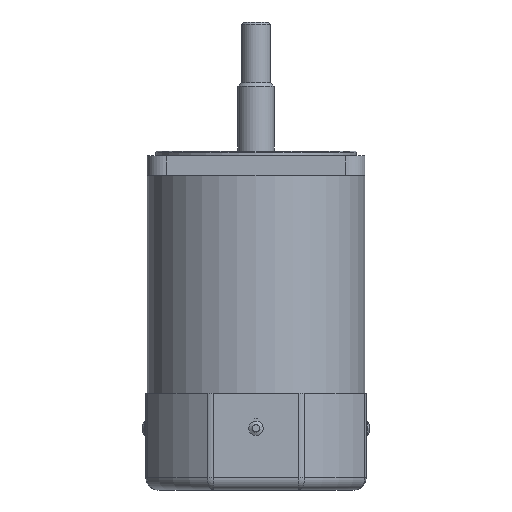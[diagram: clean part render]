
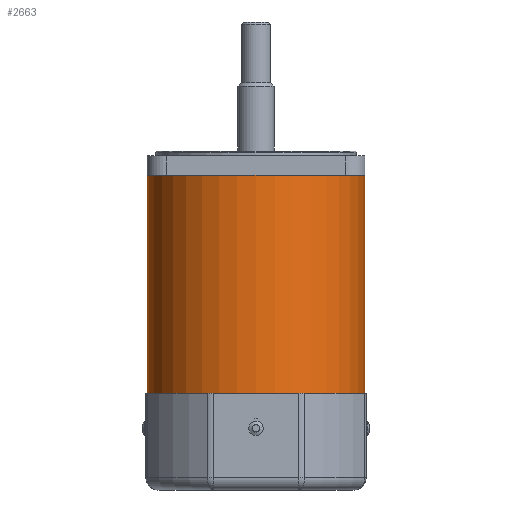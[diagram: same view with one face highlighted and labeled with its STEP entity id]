
A CAD part, front view. The second image highlights one B-rep face of the part: STEP entity #2663.
In plain terms, the highlighted cylindrical face has radius 45 mm (diameter 90 mm), a full revolution.
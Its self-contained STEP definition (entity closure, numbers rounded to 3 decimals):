
#392 = VERTEX_POINT ( 'NONE', #3510 ) ;
#421 = VERTEX_POINT ( 'NONE', #3481 ) ;
#520 = VERTEX_POINT ( 'NONE', #7520 ) ;
#552 = VERTEX_POINT ( 'NONE', #7477 ) ;
#553 = VERTEX_POINT ( 'NONE', #7476 ) ;
#649 = VERTEX_POINT ( 'NONE', #7348 ) ;
#1174 = CARTESIAN_POINT ( 'NONE',  ( -45., 0., -108.5 ) ) ;
#2020 = CIRCLE ( 'NONE', #5691, 45. ) ;
#2047 = CIRCLE ( 'NONE', #5702, 45. ) ;
#2055 = CIRCLE ( 'NONE', #5704, 45. ) ;
#2060 = LINE ( 'NONE', #14362, #2062 ) ;
#2062 = VECTOR ( 'NONE', #14381, 1000. ) ;
#2063 = CIRCLE ( 'NONE', #5707, 45. ) ;
#2068 = CIRCLE ( 'NONE', #5709, 45. ) ;
#2070 = LINE ( 'NONE', #14408, #2078 ) ;
#2078 = VECTOR ( 'NONE', #14402, 1000. ) ;
#2081 = CIRCLE ( 'NONE', #5713, 45. ) ;
#2096 = CIRCLE ( 'NONE', #5719, 45. ) ;
#2663 = ADVANCED_FACE ( 'NONE', ( #5435, #5443 ), #5445, .T. ) ;
#3200 = EDGE_LOOP ( 'NONE', ( #8086 ) ) ;
#3297 = EDGE_LOOP ( 'NONE', ( #8085, #8084, #8083, #8082, #8081, #8080, #8079, #8078 ) ) ;
#3481 = CARTESIAN_POINT ( 'NONE',  ( -45., 0., -8. ) ) ;
#3510 = CARTESIAN_POINT ( 'NONE',  ( 27.5, 35.62, -61. ) ) ;
#4658 = EDGE_CURVE ( 'NONE', #553, #552, #2020, .T. ) ;
#4681 = EDGE_CURVE ( 'NONE', #392, #553, #2047, .T. ) ;
#4684 = EDGE_CURVE ( 'NONE', #421, #7967, #2055, .T. ) ;
#4688 = EDGE_CURVE ( 'NONE', #7964, #392, #2060, .T. ) ;
#4691 = EDGE_CURVE ( 'NONE', #520, #649, #2063, .T. ) ;
#4693 = EDGE_CURVE ( 'NONE', #7964, #520, #2068, .T. ) ;
#4700 = EDGE_CURVE ( 'NONE', #552, #7967, #2070, .T. ) ;
#4703 = EDGE_CURVE ( 'NONE', #649, #421, #2081, .T. ) ;
#4712 = EDGE_CURVE ( 'NONE', #13431, #13431, #2096, .T. ) ;
#4869 = AXIS2_PLACEMENT_3D ( 'NONE', #6783, #6776, #6787 ) ;
#5435 = FACE_OUTER_BOUND ( 'NONE', #3200, .T. ) ;
#5443 = FACE_OUTER_BOUND ( 'NONE', #3297, .T. ) ;
#5445 = CYLINDRICAL_SURFACE ( 'NONE', #4869, 45. ) ;
#5691 = AXIS2_PLACEMENT_3D ( 'NONE', #14210, #14211, #14212 ) ;
#5702 = AXIS2_PLACEMENT_3D ( 'NONE', #14364, #14365, #14366 ) ;
#5704 = AXIS2_PLACEMENT_3D ( 'NONE', #14372, #14373, #14374 ) ;
#5707 = AXIS2_PLACEMENT_3D ( 'NONE', #14387, #14388, #14389 ) ;
#5709 = AXIS2_PLACEMENT_3D ( 'NONE', #14394, #14395, #14396 ) ;
#5713 = AXIS2_PLACEMENT_3D ( 'NONE', #14417, #14418, #14419 ) ;
#5719 = AXIS2_PLACEMENT_3D ( 'NONE', #14441, #14442, #14443 ) ;
#6776 = DIRECTION ( 'NONE',  ( 0., 0., 1. ) ) ;
#6783 = CARTESIAN_POINT ( 'NONE',  ( 0., 0., -109. ) ) ;
#6787 = DIRECTION ( 'NONE',  ( 1., 0., 0. ) ) ;
#7348 = CARTESIAN_POINT ( 'NONE',  ( 0., -45., -8. ) ) ;
#7476 = CARTESIAN_POINT ( 'NONE',  ( 0., 45., -61. ) ) ;
#7477 = CARTESIAN_POINT ( 'NONE',  ( -27.5, 35.62, -61. ) ) ;
#7520 = CARTESIAN_POINT ( 'NONE',  ( 45., 0., -8. ) ) ;
#7964 = VERTEX_POINT ( 'NONE', #15030 ) ;
#7967 = VERTEX_POINT ( 'NONE', #15033 ) ;
#8078 = ORIENTED_EDGE ( 'NONE', *, *, #4658, .F. ) ;
#8079 = ORIENTED_EDGE ( 'NONE', *, *, #4700, .F. ) ;
#8080 = ORIENTED_EDGE ( 'NONE', *, *, #4684, .T. ) ;
#8081 = ORIENTED_EDGE ( 'NONE', *, *, #4703, .T. ) ;
#8082 = ORIENTED_EDGE ( 'NONE', *, *, #4691, .T. ) ;
#8083 = ORIENTED_EDGE ( 'NONE', *, *, #4693, .T. ) ;
#8084 = ORIENTED_EDGE ( 'NONE', *, *, #4688, .F. ) ;
#8085 = ORIENTED_EDGE ( 'NONE', *, *, #4681, .F. ) ;
#8086 = ORIENTED_EDGE ( 'NONE', *, *, #4712, .T. ) ;
#13431 = VERTEX_POINT ( 'NONE', #1174 ) ;
#14210 = CARTESIAN_POINT ( 'NONE',  ( 0., 0., -61. ) ) ;
#14211 = DIRECTION ( 'NONE',  ( 0., 0., 1. ) ) ;
#14212 = DIRECTION ( 'NONE',  ( -1., 0., 0. ) ) ;
#14362 = CARTESIAN_POINT ( 'NONE',  ( 27.5, 35.62, -109. ) ) ;
#14364 = CARTESIAN_POINT ( 'NONE',  ( 0., 0., -61. ) ) ;
#14365 = DIRECTION ( 'NONE',  ( 0., 0., 1. ) ) ;
#14366 = DIRECTION ( 'NONE',  ( -1., 0., 0. ) ) ;
#14372 = CARTESIAN_POINT ( 'NONE',  ( 0., 0., -8. ) ) ;
#14373 = DIRECTION ( 'NONE',  ( 0., 0., -1. ) ) ;
#14374 = DIRECTION ( 'NONE',  ( -1., 0., 0. ) ) ;
#14381 = DIRECTION ( 'NONE',  ( 0., 0., -1. ) ) ;
#14387 = CARTESIAN_POINT ( 'NONE',  ( 0., 0., -8. ) ) ;
#14388 = DIRECTION ( 'NONE',  ( 0., 0., -1. ) ) ;
#14389 = DIRECTION ( 'NONE',  ( -1., 0., 0. ) ) ;
#14394 = CARTESIAN_POINT ( 'NONE',  ( 0., 0., -8. ) ) ;
#14395 = DIRECTION ( 'NONE',  ( 0., 0., -1. ) ) ;
#14396 = DIRECTION ( 'NONE',  ( -1., 0., 0. ) ) ;
#14402 = DIRECTION ( 'NONE',  ( 0., 0., 1. ) ) ;
#14408 = CARTESIAN_POINT ( 'NONE',  ( -27.5, 35.62, -109. ) ) ;
#14417 = CARTESIAN_POINT ( 'NONE',  ( 0., 0., -8. ) ) ;
#14418 = DIRECTION ( 'NONE',  ( 0., 0., -1. ) ) ;
#14419 = DIRECTION ( 'NONE',  ( -1., 0., 0. ) ) ;
#14441 = CARTESIAN_POINT ( 'NONE',  ( 0., 0., -108.5 ) ) ;
#14442 = DIRECTION ( 'NONE',  ( 0., 0., 1. ) ) ;
#14443 = DIRECTION ( 'NONE',  ( -1., 0., 0. ) ) ;
#15030 = CARTESIAN_POINT ( 'NONE',  ( 27.5, 35.62, -8. ) ) ;
#15033 = CARTESIAN_POINT ( 'NONE',  ( -27.5, 35.62, -8. ) ) ;
